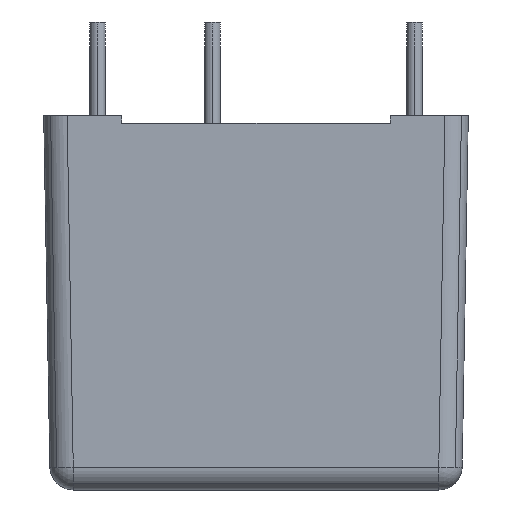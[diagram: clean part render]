
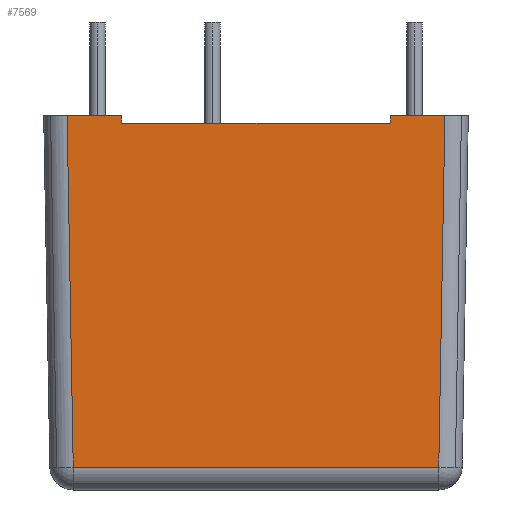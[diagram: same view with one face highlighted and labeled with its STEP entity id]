
A CAD part, left-side view. The second image highlights one B-rep face of the part: STEP entity #7569.
In plain terms, the highlighted planar face has unit normal (-1, 0, -0.018).
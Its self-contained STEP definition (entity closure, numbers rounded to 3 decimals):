
#69 = CARTESIAN_POINT ( 'NONE',  ( -42.86, -7.447, 10.328 ) ) ;
#92 = VERTEX_POINT ( 'NONE', #5450 ) ;
#147 = EDGE_CURVE ( 'NONE', #4021, #7338, #5155, .T. ) ;
#158 = LINE ( 'NONE', #2464, #2955 ) ;
#241 = EDGE_CURVE ( 'NONE', #2810, #92, #4843, .T. ) ;
#278 = EDGE_CURVE ( 'NONE', #6822, #92, #1168, .T. ) ;
#286 = VERTEX_POINT ( 'NONE', #69 ) ;
#688 = ORIENTED_EDGE ( 'NONE', *, *, #5544, .T. ) ;
#1040 = VECTOR ( 'NONE', #2272, 1000. ) ;
#1093 = DIRECTION ( 'NONE',  ( 0., 1., 0. ) ) ;
#1168 = LINE ( 'NONE', #3580, #6156 ) ;
#1282 = DIRECTION ( 'NONE',  ( -0.017, 0., 1. ) ) ;
#1904 = CARTESIAN_POINT ( 'NONE',  ( -42.86, -24.647, 10.328 ) ) ;
#2041 = CARTESIAN_POINT ( 'NONE',  ( -42.475, -4.331, -11.699 ) ) ;
#2272 = DIRECTION ( 'NONE',  ( 0., 1., 0. ) ) ;
#2343 = AXIS2_PLACEMENT_3D ( 'NONE', #6696, #5448, #3793 ) ;
#2464 = CARTESIAN_POINT ( 'NONE',  ( -42.86, -29.647, 10.328 ) ) ;
#2627 = VERTEX_POINT ( 'NONE', #1904 ) ;
#2633 = FACE_OUTER_BOUND ( 'NONE', #2858, .T. ) ;
#2810 = VERTEX_POINT ( 'NONE', #5900 ) ;
#2823 = DIRECTION ( 'NONE',  ( -0.017, 0., 1. ) ) ;
#2858 = EDGE_LOOP ( 'NONE', ( #4576, #688, #4906, #5349, #6210, #2958, #5738, #7669 ) ) ;
#2955 = VECTOR ( 'NONE', #3125, 1000. ) ;
#2958 = ORIENTED_EDGE ( 'NONE', *, *, #241, .T. ) ;
#2960 = EDGE_CURVE ( 'NONE', #286, #2810, #4486, .T. ) ;
#3067 = CARTESIAN_POINT ( 'NONE',  ( -42.86, -24.647, 10.328 ) ) ;
#3125 = DIRECTION ( 'NONE',  ( 0., 1., 0. ) ) ;
#3457 = VECTOR ( 'NONE', #2823, 1000. ) ;
#3580 = CARTESIAN_POINT ( 'NONE',  ( -42.446, -4.36, -13.373 ) ) ;
#3586 = VECTOR ( 'NONE', #1282, 1000. ) ;
#3754 = EDGE_CURVE ( 'NONE', #2627, #286, #158, .T. ) ;
#3793 = DIRECTION ( 'NONE',  ( -0.017, 0., 1. ) ) ;
#3825 = PLANE ( 'NONE',  #2343 ) ;
#3967 = CARTESIAN_POINT ( 'NONE',  ( -42.859, -7.447, 10.323 ) ) ;
#4021 = VERTEX_POINT ( 'NONE', #6437 ) ;
#4317 = VECTOR ( 'NONE', #1093, 1000. ) ;
#4486 = LINE ( 'NONE', #3967, #3457 ) ;
#4576 = ORIENTED_EDGE ( 'NONE', *, *, #147, .F. ) ;
#4719 = CARTESIAN_POINT ( 'NONE',  ( -42.868, -24.647, 10.828 ) ) ;
#4749 = CARTESIAN_POINT ( 'NONE',  ( -42.475, -22.847, -11.699 ) ) ;
#4843 = LINE ( 'NONE', #6062, #4317 ) ;
#4906 = ORIENTED_EDGE ( 'NONE', *, *, #5822, .F. ) ;
#4907 = EDGE_CURVE ( 'NONE', #7338, #6822, #5849, .T. ) ;
#4910 = CARTESIAN_POINT ( 'NONE',  ( -42.475, -27.762, -11.699 ) ) ;
#5155 = LINE ( 'NONE', #7514, #7402 ) ;
#5349 = ORIENTED_EDGE ( 'NONE', *, *, #3754, .T. ) ;
#5448 = DIRECTION ( 'NONE',  ( -1., 0., -0.017 ) ) ;
#5450 = CARTESIAN_POINT ( 'NONE',  ( -42.868, -3.938, 10.828 ) ) ;
#5544 = EDGE_CURVE ( 'NONE', #4021, #6970, #6141, .T. ) ;
#5656 = CARTESIAN_POINT ( 'NONE',  ( -42.868, -28.903, 10.828 ) ) ;
#5738 = ORIENTED_EDGE ( 'NONE', *, *, #278, .F. ) ;
#5822 = EDGE_CURVE ( 'NONE', #2627, #6970, #6673, .T. ) ;
#5824 = DIRECTION ( 'NONE',  ( 0.017, 0.017, -1. ) ) ;
#5849 = LINE ( 'NONE', #4749, #1040 ) ;
#5900 = CARTESIAN_POINT ( 'NONE',  ( -42.868, -7.447, 10.828 ) ) ;
#6062 = CARTESIAN_POINT ( 'NONE',  ( -42.868, -5.69, 10.828 ) ) ;
#6141 = LINE ( 'NONE', #5656, #7250 ) ;
#6156 = VECTOR ( 'NONE', #6478, 1000. ) ;
#6210 = ORIENTED_EDGE ( 'NONE', *, *, #2960, .T. ) ;
#6437 = CARTESIAN_POINT ( 'NONE',  ( -42.868, -28.156, 10.828 ) ) ;
#6478 = DIRECTION ( 'NONE',  ( -0.017, 0.017, 1. ) ) ;
#6673 = LINE ( 'NONE', #3067, #3586 ) ;
#6696 = CARTESIAN_POINT ( 'NONE',  ( -42.449, -29.647, -13.169 ) ) ;
#6820 = DIRECTION ( 'NONE',  ( 0., 1., 0. ) ) ;
#6822 = VERTEX_POINT ( 'NONE', #2041 ) ;
#6970 = VERTEX_POINT ( 'NONE', #4719 ) ;
#7250 = VECTOR ( 'NONE', #6820, 1000. ) ;
#7338 = VERTEX_POINT ( 'NONE', #4910 ) ;
#7402 = VECTOR ( 'NONE', #5824, 1000. ) ;
#7514 = CARTESIAN_POINT ( 'NONE',  ( -42.442, -27.729, -13.593 ) ) ;
#7569 = ADVANCED_FACE ( 'NONE', ( #2633 ), #3825, .T. ) ;
#7669 = ORIENTED_EDGE ( 'NONE', *, *, #4907, .F. ) ;
